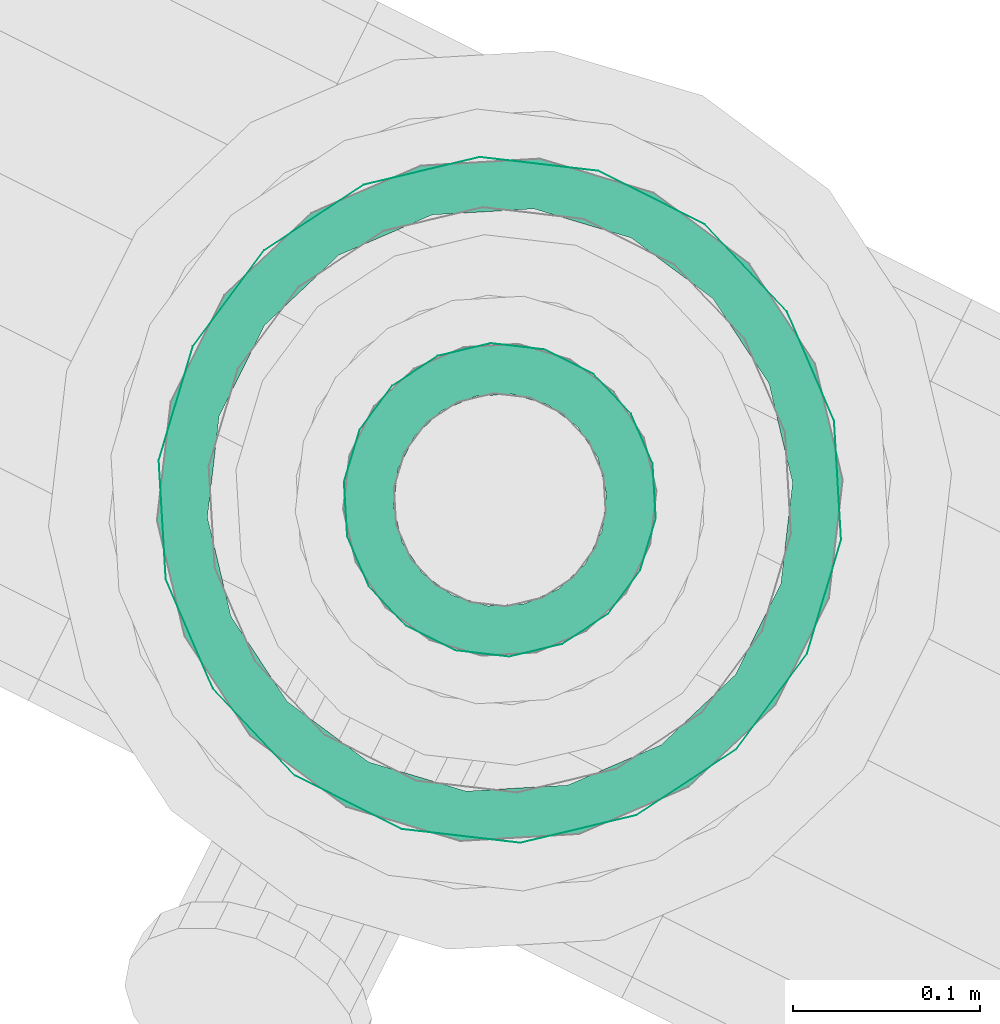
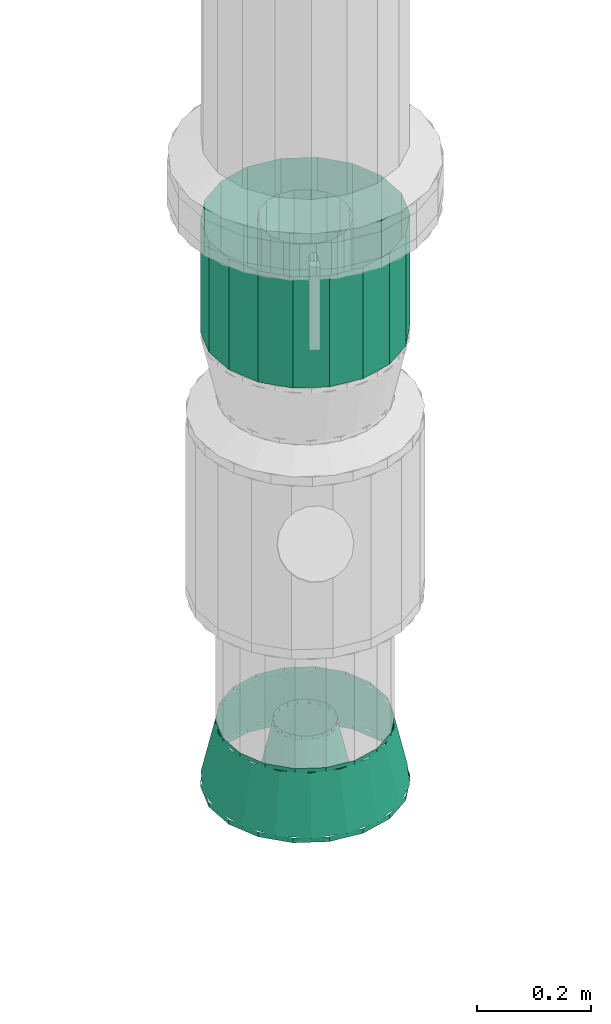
# One storey, part 62 of 152: 1 flow fitting, 1 flow segment.
"""IFC2X3 building model written with IfcOpenShell, lengths in metres."""

from ifc_helpers import new_model, si_unit, derived_unit, direction, frame, origin, place, context, subcontext, project, spatial, face_set, surface_model, source, transform, mapped, material, type_object, type_shapes, element, save


model = new_model("IFC2X3")

# Units and contexts
model_context = context("Model", 3, precision=5.2338327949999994e-05, world=origin(), true_north=direction((0.0, 1.0)))
body_context = subcontext(model_context, "Body", "Model", "MODEL_VIEW")
ifc_project = project(units=[si_unit("LENGTHUNIT", "METRE"), si_unit("AREAUNIT", "SQUARE_METRE"), si_unit("VOLUMEUNIT", "CUBIC_METRE"), si_unit("MASSUNIT", "GRAM", prefix="KILO"), si_unit("PLANEANGLEUNIT", "RADIAN"), derived_unit("THERMALTRANSMITTANCEUNIT", [(si_unit("MASSUNIT", "GRAM", prefix="KILO"), 1), (si_unit("THERMODYNAMICTEMPERATUREUNIT", "KELVIN"), -1), (si_unit("TIMEUNIT", "SECOND"), -3)])], contexts=[model_context])

# Site, building, storey
site_placement = place(None, frame((0.0, 0.0, 0.0), z_axis=(0.0, 0.0, 1.0), x_axis=(0.8939966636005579, -0.4480736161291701, 0.0)))
site = spatial("IfcSite", under=ifc_project, at=site_placement, Name="Default", CompositionType="ELEMENT")
building_placement = place(site_placement, origin())
building = spatial("IfcBuilding", under=site, at=building_placement, CompositionType="ELEMENT")
storey_placement = place(building_placement, frame((0.0, 0.0, 2.7499999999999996)))
storey = spatial("IfcBuildingStorey", under=building, at=storey_placement, Name="1. Obergeschoss", CompositionType="ELEMENT", Elevation=2.7499999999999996)

# Flow fitting
ifc_material = material(Name="IfcSurfaceStyle #1741")
distribution_element_type_1 = type_object("IfcDistributionElementType", Name="Übergangsstück 614605:Übergangsstück 614605", material=ifc_material)
shared_shape_1 = source(origin(), body_context, "Body", "SurfaceModel", [
    surface_model("IfcFaceBasedSurfaceModel", [(25.524005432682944, 8.459715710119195, 3.0829999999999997), (25.518930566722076, 8.488496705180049, 3.0829999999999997), (25.518930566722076, 8.488496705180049, 3.093459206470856), (25.524005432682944, 8.459715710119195, 3.093459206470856), (25.5043180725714, 8.513806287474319, 3.0829999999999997), (25.5043180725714, 8.513806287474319, 3.093459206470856), (25.481930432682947, 8.532591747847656, 3.0829999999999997), (25.481930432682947, 8.532591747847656, 3.093459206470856), (25.454467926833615, 8.542587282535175, 3.0829999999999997), (25.454467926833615, 8.542587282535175, 3.093459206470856), (25.425242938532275, 8.542587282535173, 3.0829999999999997), (25.425242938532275, 8.542587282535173, 3.093459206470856), (25.397780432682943, 8.532591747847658, 3.0829999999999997), (25.397780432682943, 8.532591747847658, 3.093459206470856), (25.375392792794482, 8.513806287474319, 3.0829999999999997), (25.375392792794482, 8.513806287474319, 3.093459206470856), (25.36078029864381, 8.488496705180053, 3.0829999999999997), (25.36078029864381, 8.488496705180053, 3.093459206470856), (25.355705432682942, 8.459715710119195, 3.0829999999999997), (25.355705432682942, 8.459715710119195, 3.093459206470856), (25.36078029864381, 8.43093471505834, 3.0829999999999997), (25.36078029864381, 8.43093471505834, 3.093459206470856), (25.37539279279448, 8.405625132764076, 3.0829999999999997), (25.37539279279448, 8.405625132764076, 3.093459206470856), (25.397780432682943, 8.386839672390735, 3.0829999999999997), (25.397780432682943, 8.386839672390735, 3.093459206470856), (25.425242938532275, 8.37684413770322, 3.0829999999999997), (25.425242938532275, 8.37684413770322, 3.093459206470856), (25.454467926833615, 8.376844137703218, 3.0829999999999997), (25.454467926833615, 8.376844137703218, 3.093459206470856), (25.481930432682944, 8.386839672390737, 3.0829999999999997), (25.481930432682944, 8.386839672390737, 3.093459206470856), (25.504318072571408, 8.405625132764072, 3.0829999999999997), (25.504318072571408, 8.405625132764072, 3.093459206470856), (25.518930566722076, 8.430934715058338, 3.0829999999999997), (25.518930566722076, 8.430934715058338, 3.093459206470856), (25.624005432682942, 8.459715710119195, 3.0829999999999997), (25.612899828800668, 8.522698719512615, 3.0829999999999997), (25.612899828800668, 8.522698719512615, 3.093459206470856), (25.624005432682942, 8.459715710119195, 3.093459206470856), (25.5809225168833, 8.578085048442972, 3.0829999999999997), (25.5809225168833, 8.578085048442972, 3.093459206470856), (25.531930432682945, 8.619194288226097, 3.0829999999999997), (25.531930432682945, 8.619194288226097, 3.093459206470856), (25.47183274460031, 8.641068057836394, 3.0829999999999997), (25.47183274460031, 8.641068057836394, 3.093459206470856), (25.40787812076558, 8.641068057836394, 3.0829999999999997), (25.40787812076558, 8.641068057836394, 3.093459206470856), (25.347780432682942, 8.619194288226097, 3.0829999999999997), (25.347780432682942, 8.619194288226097, 3.093459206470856), (25.298788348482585, 8.578085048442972, 3.0829999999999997), (25.298788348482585, 8.578085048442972, 3.093459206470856), (25.266811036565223, 8.522698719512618, 3.0829999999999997), (25.266811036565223, 8.522698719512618, 3.093459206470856), (25.255705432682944, 8.459715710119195, 3.0829999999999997), (25.255705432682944, 8.459715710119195, 3.093459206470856), (25.26681103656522, 8.396732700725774, 3.0829999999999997), (25.26681103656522, 8.396732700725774, 3.093459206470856), (25.298788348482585, 8.34134637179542, 3.0829999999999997), (25.298788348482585, 8.34134637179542, 3.093459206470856), (25.347780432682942, 8.300237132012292, 3.0829999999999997), (25.347780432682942, 8.300237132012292, 3.093459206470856), (25.407878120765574, 8.278363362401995, 3.0829999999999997), (25.407878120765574, 8.278363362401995, 3.093459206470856), (25.471832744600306, 8.278363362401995, 3.0829999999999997), (25.471832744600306, 8.278363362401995, 3.093459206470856), (25.531930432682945, 8.300237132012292, 3.0829999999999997), (25.531930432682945, 8.300237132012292, 3.093459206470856), (25.5809225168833, 8.341346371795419, 3.0829999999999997), (25.5809225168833, 8.341346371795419, 3.093459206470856), (25.612899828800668, 8.396732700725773, 3.0829999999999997), (25.612899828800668, 8.396732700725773, 3.093459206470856), (25.43985543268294, 8.543865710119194, 3.093459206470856), (25.41107443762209, 8.538790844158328, 3.093459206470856), (25.420308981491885, 8.513419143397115, 3.2143805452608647), (25.439855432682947, 8.516865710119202, 3.2143805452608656), (25.385764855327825, 8.524178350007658, 3.093459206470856), (25.403120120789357, 8.503495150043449, 3.2143805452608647), (25.366979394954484, 8.501790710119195, 3.093459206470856), (25.390362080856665, 8.488290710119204, 3.2143805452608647), (25.356983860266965, 8.474328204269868, 3.093459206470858), (25.38357366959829, 8.469639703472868, 3.2143805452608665), (25.356983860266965, 8.445103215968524, 3.093459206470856), (25.38357366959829, 8.449791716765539, 3.2143805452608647), (25.366979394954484, 8.417640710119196, 3.0934592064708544), (25.390362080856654, 8.431140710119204, 3.2143805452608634), (25.385764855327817, 8.39525307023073, 3.093459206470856), (25.40312012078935, 8.415936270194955, 3.2143805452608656), (25.411074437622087, 8.380640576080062, 3.093459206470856), (25.420308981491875, 8.406012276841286, 3.2143805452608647), (25.43985543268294, 8.375565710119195, 3.093459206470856), (25.43985543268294, 8.4025657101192, 3.2143805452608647), (25.4686364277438, 8.380640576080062, 3.093459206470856), (25.459401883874, 8.406012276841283, 3.2143805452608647), (25.493946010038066, 8.395253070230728, 3.0934592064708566), (25.47659074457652, 8.415936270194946, 3.2143805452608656), (25.512731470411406, 8.417640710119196, 3.093459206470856), (25.489348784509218, 8.431140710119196, 3.2143805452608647), (25.522727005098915, 8.445103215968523, 3.093459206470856), (25.496137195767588, 8.44979171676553, 3.2143805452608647), (25.522727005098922, 8.474328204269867, 3.093459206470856), (25.49613719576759, 8.46963970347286, 3.2143805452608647), (25.512731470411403, 8.501790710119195, 3.093459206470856), (25.489348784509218, 8.488290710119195, 3.2143805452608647), (25.49394601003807, 8.524178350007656, 3.0934592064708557), (25.47659074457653, 8.503495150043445, 3.2143805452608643), (25.4686364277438, 8.538790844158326, 3.093459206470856), (25.459401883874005, 8.513419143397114, 3.2143805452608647), (25.497005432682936, 8.459715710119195, 3.2143805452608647), (25.493558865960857, 8.47926216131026, 3.2143805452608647), (25.493558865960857, 8.47926216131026, 3.223), (25.497005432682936, 8.459715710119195, 3.223), (25.48363487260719, 8.496451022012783, 3.2143805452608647), (25.48363487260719, 8.496451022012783, 3.223), (25.468430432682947, 8.50920906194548, 3.2143805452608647), (25.468430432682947, 8.50920906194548, 3.223), (25.449779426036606, 8.515997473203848, 3.2143805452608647), (25.449779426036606, 8.515997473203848, 3.223), (25.429931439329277, 8.51599747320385, 3.2143805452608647), (25.429931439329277, 8.51599747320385, 3.223), (25.411280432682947, 8.509209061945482, 3.2143805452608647), (25.411280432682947, 8.509209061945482, 3.223), (25.3960759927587, 8.49645102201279, 3.2143805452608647), (25.3960759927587, 8.49645102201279, 3.223), (25.386151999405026, 8.479262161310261, 3.2143805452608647), (25.386151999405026, 8.479262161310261, 3.223), (25.382705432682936, 8.459715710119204, 3.2143805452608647), (25.382705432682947, 8.459715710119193, 3.223), (25.386151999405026, 8.44016925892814, 3.2143805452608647), (25.386151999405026, 8.44016925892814, 3.223), (25.396075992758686, 8.422980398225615, 3.2143805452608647), (25.396075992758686, 8.422980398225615, 3.223), (25.41128043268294, 8.410222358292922, 3.2143805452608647), (25.41128043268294, 8.410222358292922, 3.223), (25.429931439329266, 8.403433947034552, 3.2143805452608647), (25.429931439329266, 8.403433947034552, 3.223), (25.449779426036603, 8.403433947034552, 3.2143805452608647), (25.449779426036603, 8.403433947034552, 3.223), (25.468430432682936, 8.41022235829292, 3.2143805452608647), (25.468430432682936, 8.41022235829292, 3.223), (25.483634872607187, 8.42298039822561, 3.2143805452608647), (25.483634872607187, 8.42298039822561, 3.223), (25.49355886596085, 8.440169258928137, 3.2143805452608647), (25.49355886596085, 8.440169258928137, 3.223), (25.43985543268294, 8.643865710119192, 3.0934592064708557), (25.376872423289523, 8.632760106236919, 3.0934592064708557), (25.38610696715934, 8.60738840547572, 3.214380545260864), (25.43985543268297, 8.616865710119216, 3.2143805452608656), (25.32148609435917, 8.600782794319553, 3.0934592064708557), (25.338841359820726, 8.580099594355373, 3.214380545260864), (25.28037685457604, 8.551790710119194, 3.0934592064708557), (25.303759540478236, 8.538290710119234, 3.214380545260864), (25.258503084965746, 8.49169302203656, 3.0934592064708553), (25.28509289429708, 8.487004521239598, 3.2143805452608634), (25.258503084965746, 8.427738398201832, 3.0934592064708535), (25.28509289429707, 8.432426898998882, 3.2143805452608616), (25.280376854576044, 8.367640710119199, 3.0934592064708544), (25.30375954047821, 8.381140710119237, 3.214380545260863), (25.32148609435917, 8.318648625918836, 3.093459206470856), (25.338841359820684, 8.339331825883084, 3.2143805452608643), (25.376872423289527, 8.286671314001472, 3.0934592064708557), (25.38610696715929, 8.312043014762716, 3.214380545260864), (25.43985543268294, 8.275565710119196, 3.0934592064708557), (25.439855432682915, 8.302565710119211, 3.214380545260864), (25.502838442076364, 8.286671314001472, 3.0934592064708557), (25.493603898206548, 8.312043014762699, 3.214380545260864), (25.55822477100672, 8.318648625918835, 3.093459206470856), (25.540869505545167, 8.339331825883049, 3.2143805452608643), (25.599334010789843, 8.367640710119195, 3.0934592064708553), (25.57595132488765, 8.381140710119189, 3.2143805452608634), (25.621207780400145, 8.427738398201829, 3.093459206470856), (25.59461797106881, 8.432426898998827, 3.2143805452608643), (25.621207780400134, 8.49169302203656, 3.0934592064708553), (25.594617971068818, 8.487004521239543, 3.2143805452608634), (25.599334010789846, 8.551790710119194, 3.093459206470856), (25.575951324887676, 8.538290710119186, 3.2143805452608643), (25.558224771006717, 8.600782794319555, 3.0934592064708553), (25.540869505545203, 8.580099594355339, 3.2143805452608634), (25.502838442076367, 8.632760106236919, 3.0934592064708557), (25.493603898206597, 8.607388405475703, 3.214380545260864), (25.59700543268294, 8.459715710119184, 3.2143805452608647), (25.58752812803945, 8.513464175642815, 3.2143805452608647), (25.58752812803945, 8.513464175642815, 3.223), (25.59700543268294, 8.459715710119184, 3.223), (25.560239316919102, 8.56072978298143, 3.2143805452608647), (25.560239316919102, 8.56072978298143, 3.223), (25.518430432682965, 8.595811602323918, 3.2143805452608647), (25.518430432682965, 8.595811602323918, 3.223), (25.467144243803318, 8.614478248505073, 3.2143805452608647), (25.467144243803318, 8.614478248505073, 3.223), (25.412566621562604, 8.614478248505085, 3.2143805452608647), (25.412566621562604, 8.614478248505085, 3.223), (25.36128043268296, 8.595811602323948, 3.2143805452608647), (25.36128043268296, 8.595811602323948, 3.223), (25.319471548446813, 8.560729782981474, 3.2143805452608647), (25.319471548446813, 8.560729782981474, 3.223), (25.292182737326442, 8.513464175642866, 3.2143805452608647), (25.292182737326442, 8.513464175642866, 3.223), (25.282705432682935, 8.459715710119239, 3.2143805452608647), (25.28270543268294, 8.459715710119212, 3.223), (25.29218273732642, 8.405967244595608, 3.2143805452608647), (25.29218273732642, 8.405967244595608, 3.223), (25.319471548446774, 8.358701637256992, 3.2143805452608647), (25.319471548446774, 8.358701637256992, 3.223), (25.361280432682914, 8.323619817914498, 3.2143805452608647), (25.361280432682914, 8.323619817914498, 3.223), (25.412566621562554, 8.304953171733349, 3.2143805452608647), (25.412566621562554, 8.304953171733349, 3.223), (25.46714424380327, 8.304953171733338, 3.2143805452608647), (25.46714424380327, 8.304953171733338, 3.223), (25.518430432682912, 8.323619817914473, 3.2143805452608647), (25.518430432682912, 8.323619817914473, 3.223), (25.56023931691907, 8.358701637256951, 3.2143805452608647), (25.56023931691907, 8.358701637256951, 3.223), (25.58752812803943, 8.405967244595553, 3.2143805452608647), (25.58752812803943, 8.405967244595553, 3.223)], [face_set([[[0, 1, 2, 3]], [[1, 4, 5, 2]], [[4, 6, 7, 5]], [[6, 8, 9, 7]], [[8, 10, 11, 9]], [[10, 12, 13, 11]], [[12, 14, 15, 13]], [[14, 16, 17, 15]], [[16, 18, 19, 17]], [[18, 20, 21, 19]], [[20, 22, 23, 21]], [[22, 24, 25, 23]], [[24, 26, 27, 25]], [[26, 28, 29, 27]], [[28, 30, 31, 29]], [[30, 32, 33, 31]], [[32, 34, 35, 33]], [[34, 0, 3, 35]], [[36, 37, 38, 39]], [[37, 40, 41, 38]], [[40, 42, 43, 41]], [[42, 44, 45, 43]], [[44, 46, 47, 45]], [[46, 48, 49, 47]], [[48, 50, 51, 49]], [[50, 52, 53, 51]], [[52, 54, 55, 53]], [[54, 56, 57, 55]], [[56, 58, 59, 57]], [[58, 60, 61, 59]], [[60, 62, 63, 61]], [[62, 64, 65, 63]], [[64, 66, 67, 65]], [[66, 68, 69, 67]], [[68, 70, 71, 69]], [[70, 36, 39, 71]], [[72, 73, 74, 75]], [[73, 76, 77, 74]], [[76, 78, 79, 77]], [[78, 80, 81, 79]], [[80, 82, 83, 81]], [[82, 84, 85, 83]], [[84, 86, 87, 85]], [[86, 88, 89, 87]], [[88, 90, 91, 89]], [[90, 92, 93, 91]], [[92, 94, 95, 93]], [[94, 96, 97, 95]], [[96, 98, 99, 97]], [[98, 100, 101, 99]], [[100, 102, 103, 101]], [[102, 104, 105, 103]], [[104, 106, 107, 105]], [[106, 72, 75, 107]], [[108, 109, 110, 111]], [[109, 112, 113, 110]], [[112, 114, 115, 113]], [[114, 116, 117, 115]], [[116, 118, 119, 117]], [[118, 120, 121, 119]], [[120, 122, 123, 121]], [[122, 124, 125, 123]], [[124, 126, 127, 125]], [[126, 128, 129, 127]], [[128, 130, 131, 129]], [[130, 132, 133, 131]], [[132, 134, 135, 133]], [[134, 136, 137, 135]], [[136, 138, 139, 137]], [[138, 140, 141, 139]], [[140, 142, 143, 141]], [[142, 108, 111, 143]], [[144, 145, 146, 147]], [[145, 148, 149, 146]], [[148, 150, 151, 149]], [[150, 152, 153, 151]], [[152, 154, 155, 153]], [[154, 156, 157, 155]], [[156, 158, 159, 157]], [[158, 160, 161, 159]], [[160, 162, 163, 161]], [[162, 164, 165, 163]], [[164, 166, 167, 165]], [[166, 168, 169, 167]], [[168, 170, 171, 169]], [[170, 172, 173, 171]], [[172, 174, 175, 173]], [[174, 176, 177, 175]], [[176, 178, 179, 177]], [[178, 144, 147, 179]], [[180, 181, 182, 183]], [[181, 184, 185, 182]], [[184, 186, 187, 185]], [[186, 188, 189, 187]], [[188, 190, 191, 189]], [[190, 192, 193, 191]], [[192, 194, 195, 193]], [[194, 196, 197, 195]], [[196, 198, 199, 197]], [[198, 200, 201, 199]], [[200, 202, 203, 201]], [[202, 204, 205, 203]], [[204, 206, 207, 205]], [[206, 208, 209, 207]], [[208, 210, 211, 209]], [[210, 212, 213, 211]], [[212, 214, 215, 213]], [[214, 180, 183, 215]]])]),
])
type_shapes(distribution_element_type_1, [shared_shape_1])
flow_fitting_placement = place(storey_placement, frame((0.0, 0.0, -2.7499999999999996)))
element("IfcFlowFitting", 1, at=flow_fitting_placement, inside=storey, type_object=distribution_element_type_1, material=ifc_material, Name="Übergangsstück", ObjectType="Übergangsstück", context=body_context, shape_type="MappedRepresentation", body=[
    mapped(shared_shape_1, transform((0.0, 0.0, 0.0), scale=1.0)),
])

# Flow segment
distribution_element_type_2 = type_object("IfcDistributionElementType", Name="Stahlrohr nach DIN 2448 614628:Stahlrohr nach DIN 2448 614628", material=ifc_material)
shared_shape_2 = source(origin(), body_context, "Body", "SurfaceModel", [
    surface_model("IfcFaceBasedSurfaceModel", [(25.355705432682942, 8.459715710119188, 4.29418346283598), (25.36078029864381, 8.488496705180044, 4.29418346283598), (25.36078029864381, 8.488496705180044, 4.055870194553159), (25.355705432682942, 8.459715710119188, 4.055870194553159), (25.37539279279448, 8.513806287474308, 4.29418346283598), (25.37539279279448, 8.513806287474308, 4.055870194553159), (25.397780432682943, 8.532591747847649, 4.29418346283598), (25.39778043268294, 8.532591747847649, 4.055870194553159), (25.425242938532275, 8.542587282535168, 4.29418346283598), (25.42524293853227, 8.542587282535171, 4.055870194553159), (25.454467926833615, 8.542587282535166, 4.29418346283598), (25.454467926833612, 8.542587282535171, 4.055870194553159), (25.481930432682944, 8.532591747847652, 4.29418346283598), (25.481930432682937, 8.532591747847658, 4.055870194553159), (25.504318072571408, 8.513806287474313, 4.29418346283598), (25.5043180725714, 8.513806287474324, 4.055870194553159), (25.518930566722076, 8.488496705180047, 4.29418346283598), (25.51893056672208, 8.488496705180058, 4.055870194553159), (25.524005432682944, 8.45971571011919, 4.294183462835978), (25.524005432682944, 8.459715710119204, 4.055870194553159), (25.518930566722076, 8.430934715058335, 4.29418346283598), (25.51893056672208, 8.430934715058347, 4.055870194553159), (25.5043180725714, 8.405625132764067, 4.29418346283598), (25.50431807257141, 8.40562513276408, 4.055870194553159), (25.481930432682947, 8.386839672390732, 4.29418346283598), (25.48193043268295, 8.386839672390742, 4.055870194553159), (25.45446792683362, 8.376844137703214, 4.29418346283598), (25.45446792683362, 8.37684413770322, 4.055870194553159), (25.425242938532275, 8.376844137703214, 4.29418346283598), (25.42524293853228, 8.376844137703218, 4.055870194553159), (25.397780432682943, 8.386839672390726, 4.29418346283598), (25.39778043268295, 8.386839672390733, 4.055870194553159), (25.37539279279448, 8.405625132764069, 4.29418346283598), (25.37539279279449, 8.40562513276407, 4.055870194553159), (25.36078029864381, 8.430934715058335, 4.29418346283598), (25.360780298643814, 8.430934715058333, 4.055870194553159), (25.25570543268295, 8.459715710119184, 4.29418346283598), (25.266811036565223, 8.5226987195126, 4.29418346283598), (25.26681103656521, 8.52269871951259, 4.055870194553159), (25.25570543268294, 8.459715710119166, 4.055870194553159), (25.298788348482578, 8.578085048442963, 4.29418346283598), (25.298788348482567, 8.578085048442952, 4.055870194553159), (25.347780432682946, 8.61919428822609, 4.29418346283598), (25.347780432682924, 8.619194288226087, 4.055870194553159), (25.407878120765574, 8.641068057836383, 4.29418346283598), (25.40787812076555, 8.64106805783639, 4.055870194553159), (25.471832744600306, 8.641068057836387, 4.29418346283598), (25.471832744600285, 8.641068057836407, 4.055870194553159), (25.531930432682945, 8.619194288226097, 4.29418346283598), (25.531930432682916, 8.619194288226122, 4.055870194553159), (25.580922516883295, 8.578085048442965, 4.29418346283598), (25.58092251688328, 8.578085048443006, 4.055870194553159), (25.612899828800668, 8.522698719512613, 4.29418346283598), (25.612899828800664, 8.522698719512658, 4.055870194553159), (25.624005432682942, 8.459715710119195, 4.29418346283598), (25.62400543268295, 8.459715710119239, 4.055870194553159), (25.612899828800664, 8.396732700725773, 4.29418346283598), (25.61289982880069, 8.396732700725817, 4.055870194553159), (25.5809225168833, 8.341346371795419, 4.29418346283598), (25.580922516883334, 8.341346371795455, 4.055870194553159), (25.531930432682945, 8.30023713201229, 4.29418346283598), (25.53193043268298, 8.300237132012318, 4.055870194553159), (25.47183274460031, 8.278363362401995, 4.29418346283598), (25.471832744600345, 8.278363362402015, 4.055870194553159), (25.40787812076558, 8.278363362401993, 4.29418346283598), (25.40787812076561, 8.278363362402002, 4.055870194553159), (25.347780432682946, 8.300237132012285, 4.29418346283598), (25.347780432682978, 8.300237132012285, 4.055870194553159), (25.298788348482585, 8.341346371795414, 4.29418346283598), (25.298788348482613, 8.3413463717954, 4.055870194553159), (25.266811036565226, 8.396732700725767, 4.29418346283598), (25.266811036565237, 8.396732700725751, 4.055870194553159)], [face_set([[[0, 1, 2, 3]], [[1, 4, 5, 2]], [[4, 6, 7, 5]], [[6, 8, 9, 7]], [[8, 10, 11, 9]], [[10, 12, 13, 11]], [[12, 14, 15, 13]], [[14, 16, 17, 15]], [[16, 18, 19, 17]], [[18, 20, 21, 19]], [[20, 22, 23, 21]], [[22, 24, 25, 23]], [[24, 26, 27, 25]], [[26, 28, 29, 27]], [[28, 30, 31, 29]], [[30, 32, 33, 31]], [[32, 34, 35, 33]], [[34, 0, 3, 35]], [[36, 37, 38, 39]], [[37, 40, 41, 38]], [[40, 42, 43, 41]], [[42, 44, 45, 43]], [[44, 46, 47, 45]], [[46, 48, 49, 47]], [[48, 50, 51, 49]], [[50, 52, 53, 51]], [[52, 54, 55, 53]], [[54, 56, 57, 55]], [[56, 58, 59, 57]], [[58, 60, 61, 59]], [[60, 62, 63, 61]], [[62, 64, 65, 63]], [[64, 66, 67, 65]], [[66, 68, 69, 67]], [[68, 70, 71, 69]], [[70, 36, 39, 71]]])]),
])
type_shapes(distribution_element_type_2, [shared_shape_2])
flow_segment_placement = place(storey_placement, frame((0.0, 0.0, -2.7499999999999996)))
element("IfcFlowSegment", 2, at=flow_segment_placement, inside=storey, type_object=distribution_element_type_2, material=ifc_material, Name="Stahlrohr nach DIN 2448", ObjectType="Stahlrohr nach DIN 2448", context=body_context, shape_type="MappedRepresentation", body=[
    mapped(shared_shape_2, transform((0.0, 0.0, 0.0), scale=1.0)),
])

save(model, "model.ifc")
